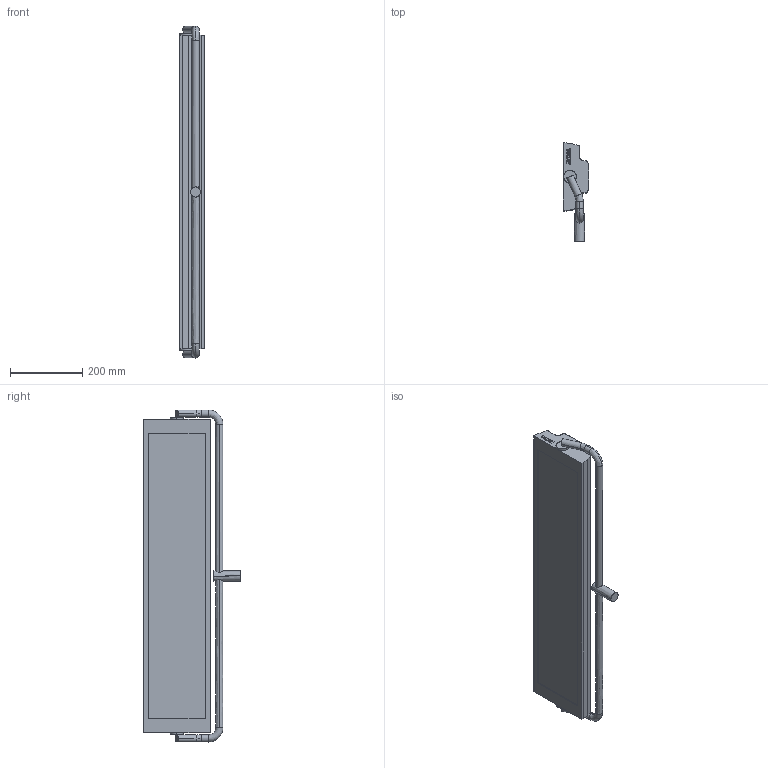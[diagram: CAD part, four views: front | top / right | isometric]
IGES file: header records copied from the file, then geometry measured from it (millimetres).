
Start section: SolidWorks IGES file using analytic representation for surfaces
Global section: file name: C:\Users\Eddy\Desktop\MINI 3 IP54.IGS; native system: SolidWorks 2023; preprocessor: SolidWorks 2023; author: Eddy; date: 240715.150125; units: millimetre
Bounding box: 70.41 x 271.29 x 920 mm (x, y, z)
Surface area: 518135 mm2 (no closed solid volume)
Topology: 0 solids, 0 shells, 292 faces, 3782 edges, 3782 vertices
Faces by surface type: bspline 262, revolution 30
